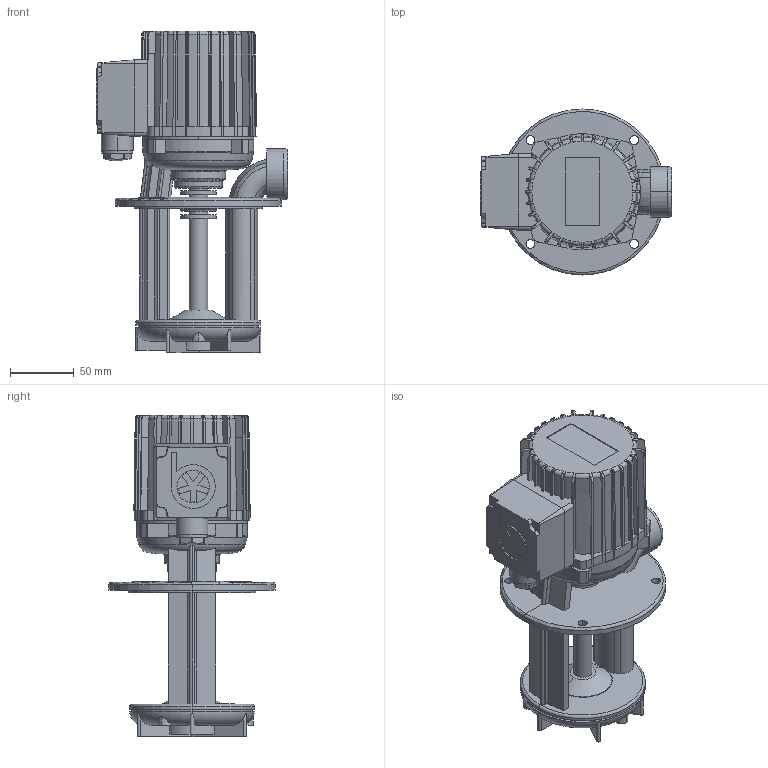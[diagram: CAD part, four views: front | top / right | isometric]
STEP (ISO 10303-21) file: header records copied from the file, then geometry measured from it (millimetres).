
FILE_DESCRIPTION(('no description'),'unknown implementation level');
FILE_NAME('TB25_120_11.stp',' ',('K. H. Brinkmann GmbH & Co. KG'),('CADClick - KiM GmbH - www.kimweb.de'),'unknown preprocess','ACIS','unknown authorization');
FILE_SCHEMA(('automotive_design'));
Length unit declared in the file: millimetre
Products named in the file (3): 1; 2; 3
Bounding box: 150 x 130 x 252 mm (x, y, z)
Volume: 1199699.8 mm3; surface area: 179523.3 mm2
Topology: 3 solids, 3 shells, 620 faces, 1658 edges, 1066 vertices
Faces by surface type: plane 307, cylinder 160, torus 85, cone 68
Entity records: 43186 total; most frequent: CARTESIAN_POINT 9335, STYLED_ITEM 3347, PRESENTATION_STYLE_ASSIGNMENT 3347, COLOUR_RGB 3347, ORIENTED_EDGE 3316, DIRECTION 3109, EDGE_CURVE 1658, CURVE_STYLE 1658
